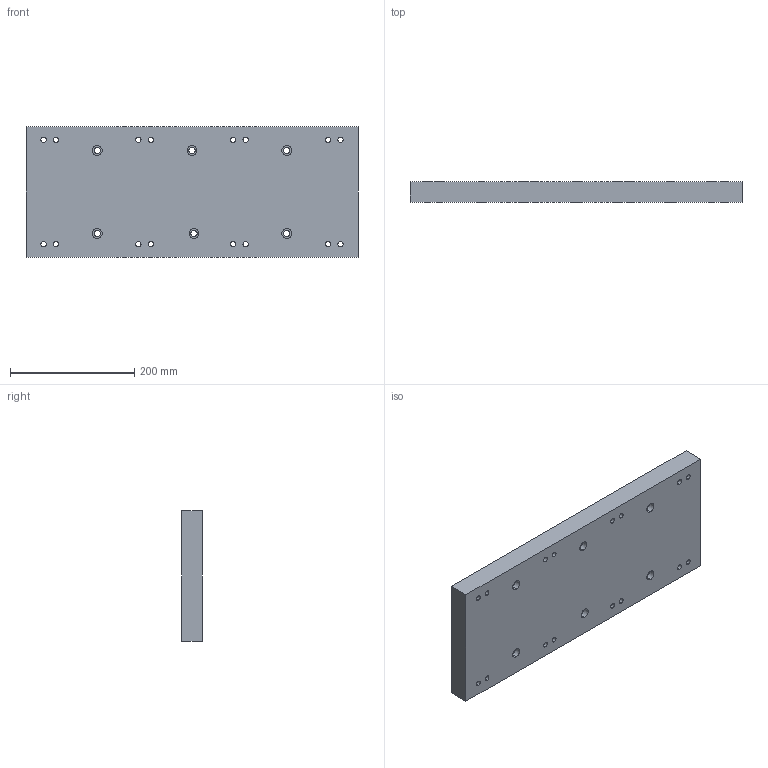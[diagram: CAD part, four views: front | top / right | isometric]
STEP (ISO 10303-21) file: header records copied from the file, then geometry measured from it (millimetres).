
FILE_DESCRIPTION (( 'STEP AP203' ), '1' );
FILE_NAME ('269-18-201.STEP', '2020-03-03T16:54:45', ( '' ), ( '' ), 'SwSTEP 2.0', 'SolidWorks 2017', '' );
FILE_SCHEMA (( 'CONFIG_CONTROL_DESIGN' ));
Length unit declared in the file: inch
Products named in the file (1): 269-18-201
Bounding box: 533.4 x 33.32 x 209.55 mm (x, y, z)
Volume: 3661277.3 mm3; surface area: 293839.1 mm2
Topology: 1 solids, 1 shells, 116 faces, 276 edges, 184 vertices
Faces by surface type: cylinder 88, plane 28
Entity records: 3623 total; most frequent: DIRECTION 686, CARTESIAN_POINT 577, ORIENTED_EDGE 552, AXIS2_PLACEMENT_3D 293, EDGE_CURVE 276, VERTEX_POINT 184, EDGE_LOOP 182, CIRCLE 176
